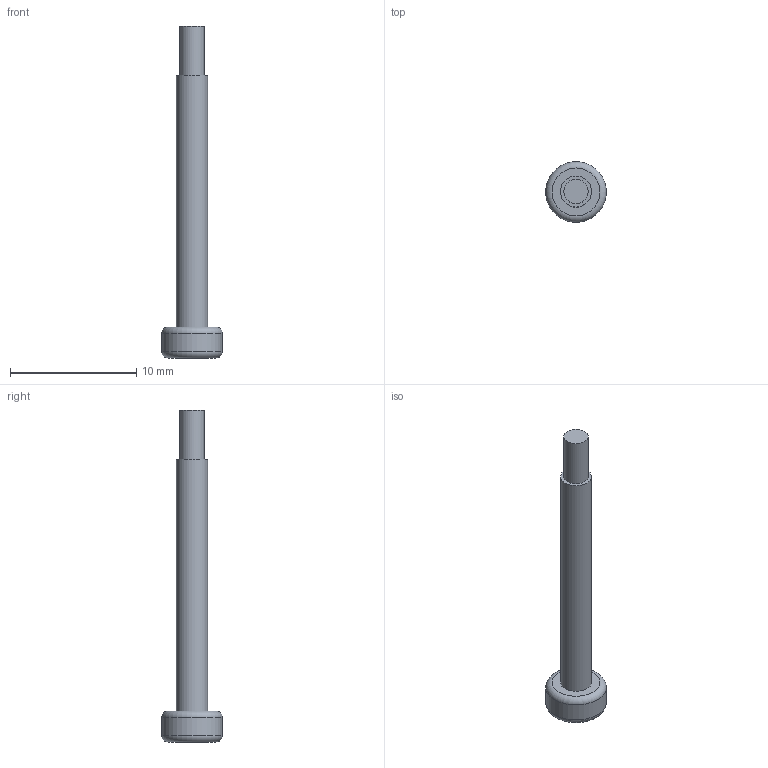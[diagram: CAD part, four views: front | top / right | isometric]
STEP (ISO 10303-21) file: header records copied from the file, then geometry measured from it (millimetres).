
FILE_DESCRIPTION(/* description */ (''),/* implementation_level */ '2;1');
FILE_NAME(/* name */ 'Y-JG-WJ-B00145-01.stp',/* time_stamp */ '2024-04-13T19:05:25+08:00',/* author */ (''),/* organization */ (''),/* preprocessor_version */ 'ST-DEVELOPER v16',/* originating_system */ 'SIEMENS PLM Software NX 10.0',/* authorisation */ '');
FILE_SCHEMA (('AUTOMOTIVE_DESIGN { 1 0 10303 214 3 1 1 1 }'));
Length unit declared in the file: millimetre
Products named in the file (1): _model3
Bounding box: 4.8 x 4.8 x 26.3 mm (x, y, z)
Volume: 145.1 mm3; surface area: 252 mm2
Topology: 1 solids, 1 shells, 16 faces, 31 edges, 20 vertices
Faces by surface type: plane 11, cylinder 3, torus 2
Full cylindrical faces by diameter (mm): 1.93 x1, 2.46 x1, 4.8 x1
Entity records: 406 total; most frequent: DIRECTION 68, CARTESIAN_POINT 63, ORIENTED_EDGE 52, EDGE_CURVE 26, AXIS2_PLACEMENT_3D 25, EDGE_LOOP 24, VERTEX_POINT 20, LINE 18
